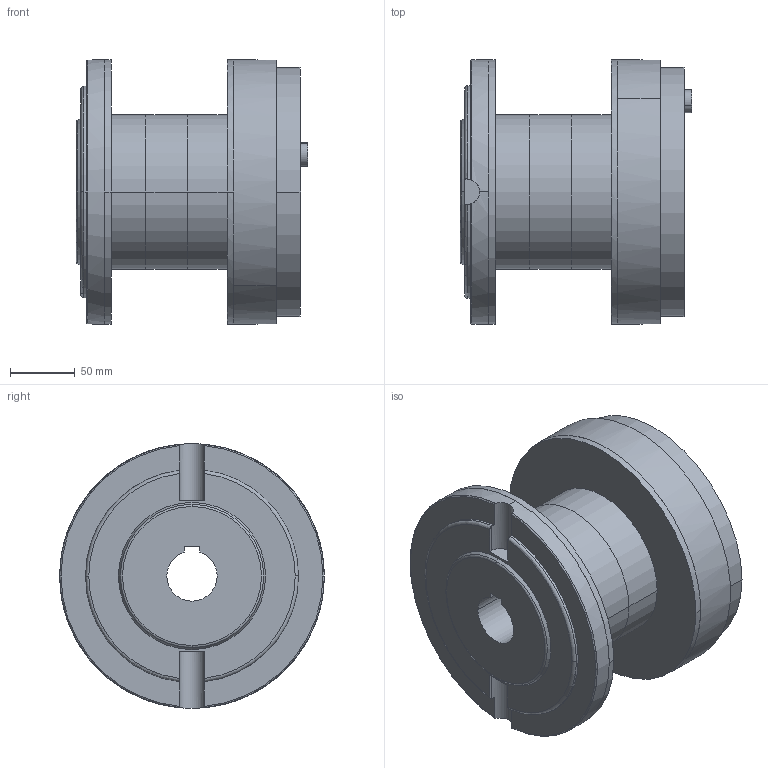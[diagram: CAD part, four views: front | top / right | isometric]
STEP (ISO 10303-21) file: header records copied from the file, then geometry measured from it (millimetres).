
FILE_DESCRIPTION(('STEP AP214'),'1');
FILE_NAME('6_205_df_ml_d39-a1_t1.stp','2024-04-16T08:35:36',('TraceParts'),('TraceParts S.A.'),'Spatial InterOp 3D',' ',' ');
FILE_SCHEMA(('AUTOMOTIVE_DESIGN { 1 0 10303 214 1 1 1 1 }'));
Length unit declared in the file: millimetre
Products named in the file (1): 6_205_df_ml_d39-a1_t1
Bounding box: 179.4 x 205 x 205 mm (x, y, z)
Volume: 2823337 mm3; surface area: 345605.2 mm2
Topology: 1 solids, 2 shells, 278 faces, 767 edges, 481 vertices
Faces by surface type: cylinder 141, plane 99, cone 26, torus 12
Entity records: 15897 total; most frequent: CARTESIAN_POINT 2053, DIRECTION 1639, ORIENTED_EDGE 1530, PRESENTATION_STYLE_ASSIGNMENT 1170, COLOUR_RGB 1170, STYLED_ITEM 897, CURVE_STYLE 891, DRAUGHTING_PRE_DEFINED_CURVE_FONT 891
